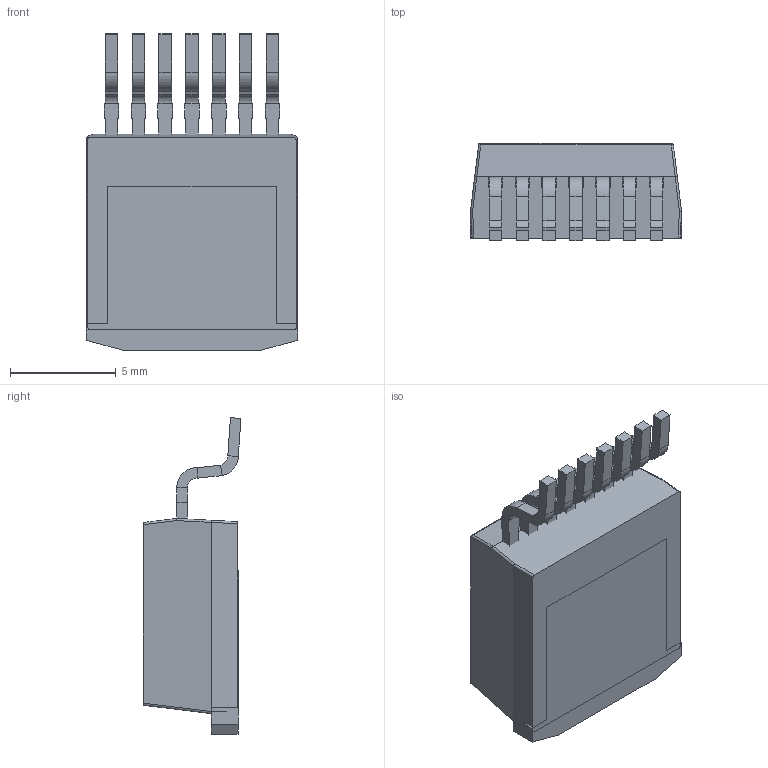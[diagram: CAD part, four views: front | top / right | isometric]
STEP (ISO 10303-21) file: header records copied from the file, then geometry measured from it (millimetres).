
FILE_DESCRIPTION (( 'STEP AP214' ), '1' );
FILE_NAME ('J2_pkg CAD.STEP', '2023-05-03T15:22:31', ( '' ), ( '' ), 'SwSTEP 2.0', 'SolidWorks 2021', '' );
FILE_SCHEMA (( 'AUTOMOTIVE_DESIGN' ));
Length unit declared in the file: millimetre
Products named in the file (3): TO-263-7L-LF_new_v3; J2_pkg CAD; TO-263-7L-EMC_new_v3
Assembly tree (2 placements, depth 2):
  J2_pkg CAD
    TO-263-7L-EMC_new_v3
    TO-263-7L-LF_new_v3
Bounding box: 10 x 4.64 x 15 mm (x, y, z)
Volume: 493.2 mm3; surface area: 661 mm2
Topology: 5 solids, 5 shells, 279 faces, 671 edges, 409 vertices
Faces by surface type: plane 230, cylinder 48, sphere 1
Entity records: 8361 total; most frequent: CARTESIAN_POINT 1457, ORIENTED_EDGE 1342, DIRECTION 1291, EDGE_CURVE 671, VECTOR 573, LINE 573, VERTEX_POINT 409, AXIS2_PLACEMENT_3D 359
